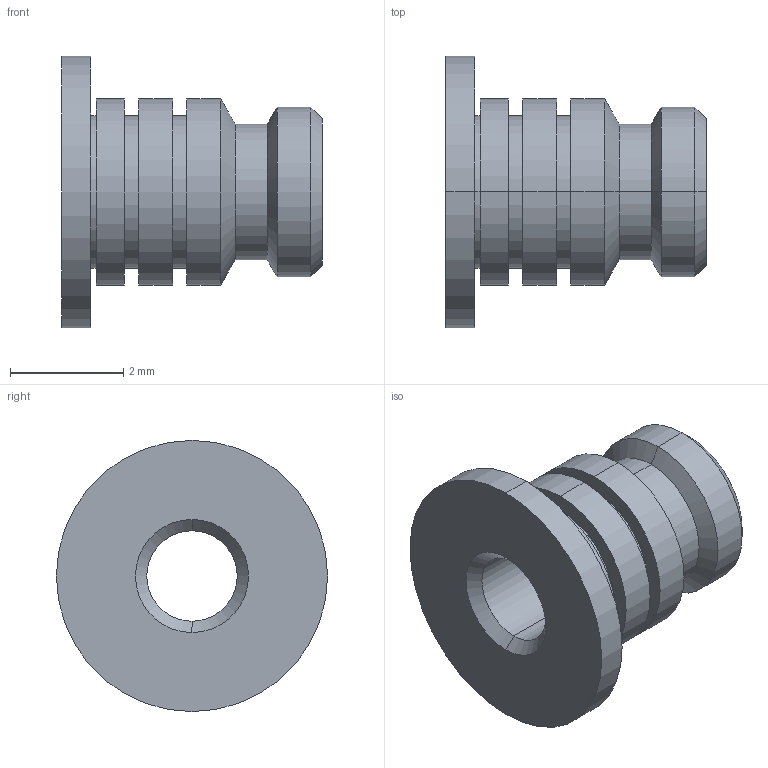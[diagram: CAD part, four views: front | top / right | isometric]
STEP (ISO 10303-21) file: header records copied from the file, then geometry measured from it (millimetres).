
FILE_DESCRIPTION (( 'STEP AP203' ), '1' );
FILE_NAME ('FSUK-MUH-M02-S.STEP', '2021-04-15T13:20:58', ( '' ), ( '' ), 'SwSTEP 2.0', 'SolidWorks 2021', '' );
FILE_SCHEMA (( 'CONFIG_CONTROL_DESIGN' ));
Length unit declared in the file: millimetre
Products named in the file (1): FSUK-MUH-M02-S
Bounding box: 4.61 x 4.8 x 4.8 mm (x, y, z)
Volume: 28.4 mm3; surface area: 118.4 mm2
Topology: 1 solids, 1 shells, 38 faces, 76 edges, 46 vertices
Faces by surface type: cylinder 20, cone 10, plane 8
Entity records: 1075 total; most frequent: DIRECTION 200, CARTESIAN_POINT 161, ORIENTED_EDGE 152, AXIS2_PLACEMENT_3D 85, EDGE_CURVE 76, CIRCLE 46, VERTEX_POINT 46, EDGE_LOOP 46
